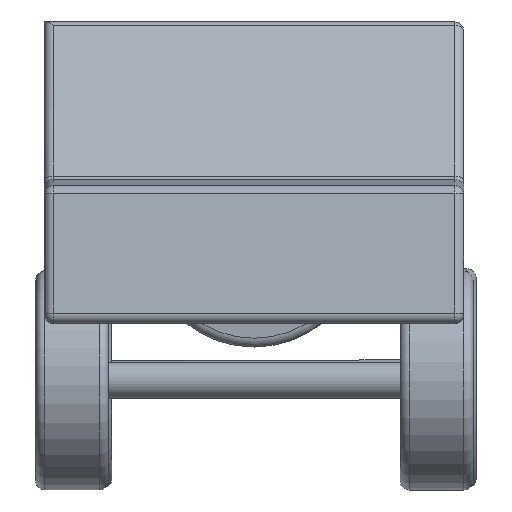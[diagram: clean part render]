
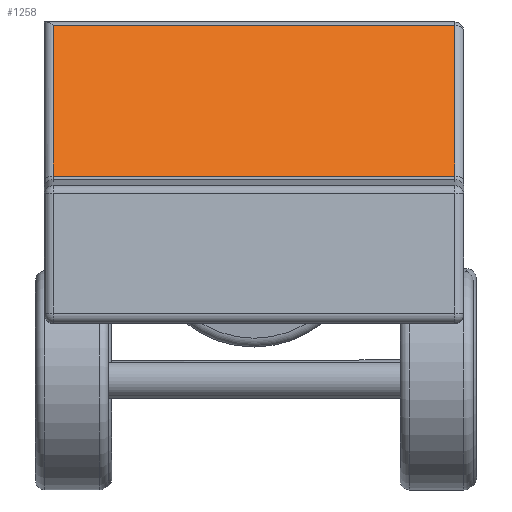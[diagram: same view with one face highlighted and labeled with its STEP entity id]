
A CAD part, left-side view. The second image highlights one B-rep face of the part: STEP entity #1258.
In plain terms, the highlighted planar face has unit normal (-0.798, 0, 0.603).
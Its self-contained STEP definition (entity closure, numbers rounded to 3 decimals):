
#77=(GEOMETRIC_REPRESENTATION_CONTEXT(2)PARAMETRIC_REPRESENTATION_CONTEXT()REPRESENTATION_CONTEXT('',''));
#1070=CARTESIAN_POINT('',(-18.977,-23.,18.985));
#1071=DIRECTION('',(0.,-1.,0.));
#1072=DIRECTION('',(0.,0.,-1.));
#1073=AXIS2_PLACEMENT_3D('',#1070,#1071,#1072);
#1074=CYLINDRICAL_SURFACE('',#1073,0.5);
#1160=CARTESIAN_POINT('',(-18.723,-23.,18.492));
#1161=DIRECTION('',(-0.798,0.,0.603));
#1162=DIRECTION('',(0.603,0.,0.798));
#1163=AXIS2_PLACEMENT_3D('',#1160,#1161,#1162);
#1164=PLANE('',#1163);
#1165=CARTESIAN_POINT('',(-12.342,-22.5,26.933));
#1166=VERTEX_POINT('',#1165);
#1167=CARTESIAN_POINT('',(-12.342,-0.5,26.933));
#1168=VERTEX_POINT('',#1167);
#1169=CARTESIAN_POINT('',(-11.943,-23.,26.631));
#1170=DIRECTION('',(0.,1.,0.));
#1171=DIRECTION('',(0.,-0.,1.));
#1172=AXIS2_PLACEMENT_3D('',#1169,#1170,#1171);
#1173=CYLINDRICAL_SURFACE('',#1172,0.5);
#1174=CARTESIAN_POINT('',(10.581,0.5));
#1175=CARTESIAN_POINT('',(10.581,22.5));
#1176=B_SPLINE_CURVE_WITH_KNOTS('',1,(#1174,#1175),.UNSPECIFIED.,.F.,.F.,(2,2),(0.001,0.023),.UNSPECIFIED.);
#1177=DEFINITIONAL_REPRESENTATION('',(#1176),#77);
#1178=PCURVE('',#1164,#1177);
#1179=CARTESIAN_POINT('',(307.091,0.5));
#1180=CARTESIAN_POINT('',(307.091,22.5));
#1181=B_SPLINE_CURVE_WITH_KNOTS('',1,(#1179,#1180),.UNSPECIFIED.,.F.,.F.,(2,2),(0.001,0.023),.UNSPECIFIED.);
#1182=DEFINITIONAL_REPRESENTATION('',(#1181),#77);
#1183=PCURVE('',#1173,#1182);
#1184=CARTESIAN_POINT('',(-12.342,-22.5,26.933));
#1185=DIRECTION('',(0.,1.,0.));
#1186=VECTOR('',#1185,22.);
#1187=LINE('',#1184,#1186);
#1188=INTERSECTION_CURVE('',#1187,(#1178,#1183),.PCURVE_S1.);
#1189=EDGE_CURVE('',#1166,#1168,#1188,.T.);
#1190=ORIENTED_EDGE('',*,*,#1189,.T.);
#1191=CARTESIAN_POINT('',(-18.579,-0.5,18.684));
#1192=VERTEX_POINT('',#1191);
#1193=CARTESIAN_POINT('',(-22.501,-0.5,12.667));
#1194=DIRECTION('',(-0.603,0.,-0.798));
#1195=DIRECTION('',(-0.798,0.,0.603));
#1196=AXIS2_PLACEMENT_3D('',#1193,#1194,#1195);
#1197=CYLINDRICAL_SURFACE('',#1196,0.5);
#1198=CARTESIAN_POINT('',(10.581,22.5));
#1199=CARTESIAN_POINT('',(0.239,22.5));
#1200=B_SPLINE_CURVE_WITH_KNOTS('',1,(#1198,#1199),.UNSPECIFIED.,.F.,.F.,(2,2),(0.,0.011),.UNSPECIFIED.);
#1201=DEFINITIONAL_REPRESENTATION('',(#1200),#77);
#1202=PCURVE('',#1164,#1201);
#1203=CARTESIAN_POINT('',(0.,-17.506));
#1204=CARTESIAN_POINT('',(0.,-7.165));
#1205=B_SPLINE_CURVE_WITH_KNOTS('',1,(#1203,#1204),.UNSPECIFIED.,.F.,.F.,(2,2),(0.,0.011),.UNSPECIFIED.);
#1206=DEFINITIONAL_REPRESENTATION('',(#1205),#77);
#1207=PCURVE('',#1197,#1206);
#1208=CARTESIAN_POINT('',(-12.342,-0.5,26.933));
#1209=DIRECTION('',(-0.603,-0.,-0.798));
#1210=VECTOR('',#1209,10.341);
#1211=LINE('',#1208,#1210);
#1212=INTERSECTION_CURVE('',#1211,(#1202,#1207),.PCURVE_S1.);
#1213=EDGE_CURVE('',#1168,#1192,#1212,.T.);
#1214=ORIENTED_EDGE('',*,*,#1213,.T.);
#1215=CARTESIAN_POINT('',(-18.579,-22.5,18.684));
#1216=VERTEX_POINT('',#1215);
#1217=CARTESIAN_POINT('',(0.239,22.5));
#1218=CARTESIAN_POINT('',(0.239,0.5));
#1219=B_SPLINE_CURVE_WITH_KNOTS('',1,(#1217,#1218),.UNSPECIFIED.,.F.,.F.,(2,2),(0.001,0.023),.UNSPECIFIED.);
#1220=DEFINITIONAL_REPRESENTATION('',(#1219),#77);
#1221=PCURVE('',#1164,#1220);
#1222=CARTESIAN_POINT('',(52.909,-22.5));
#1223=CARTESIAN_POINT('',(52.909,-0.5));
#1224=B_SPLINE_CURVE_WITH_KNOTS('',1,(#1222,#1223),.UNSPECIFIED.,.F.,.F.,(2,2),(0.001,0.023),.UNSPECIFIED.);
#1225=DEFINITIONAL_REPRESENTATION('',(#1224),#77);
#1226=PCURVE('',#1074,#1225);
#1227=CARTESIAN_POINT('',(-18.579,-0.5,18.684));
#1228=DIRECTION('',(-0.,-1.,-0.));
#1229=VECTOR('',#1228,22.);
#1230=LINE('',#1227,#1229);
#1231=INTERSECTION_CURVE('',#1230,(#1221,#1226),.PCURVE_S1.);
#1232=EDGE_CURVE('',#1192,#1216,#1231,.T.);
#1233=ORIENTED_EDGE('',*,*,#1232,.T.);
#1234=CARTESIAN_POINT('',(-18.324,-22.5,18.191));
#1235=DIRECTION('',(0.603,0.,0.798));
#1236=DIRECTION('',(0.798,0.,-0.603));
#1237=AXIS2_PLACEMENT_3D('',#1234,#1235,#1236);
#1238=CYLINDRICAL_SURFACE('',#1237,0.5);
#1239=CARTESIAN_POINT('',(0.239,0.5));
#1240=CARTESIAN_POINT('',(10.581,0.5));
#1241=B_SPLINE_CURVE_WITH_KNOTS('',1,(#1239,#1240),.UNSPECIFIED.,.F.,.F.,(2,2),(0.,0.011),.UNSPECIFIED.);
#1242=DEFINITIONAL_REPRESENTATION('',(#1241),#77);
#1243=PCURVE('',#1164,#1242);
#1244=CARTESIAN_POINT('',(180.,0.239));
#1245=CARTESIAN_POINT('',(180.,10.581));
#1246=B_SPLINE_CURVE_WITH_KNOTS('',1,(#1244,#1245),.UNSPECIFIED.,.F.,.F.,(2,2),(0.,0.011),.UNSPECIFIED.);
#1247=DEFINITIONAL_REPRESENTATION('',(#1246),#77);
#1248=PCURVE('',#1238,#1247);
#1249=CARTESIAN_POINT('',(-18.579,-22.5,18.684));
#1250=DIRECTION('',(0.603,0.,0.798));
#1251=VECTOR('',#1250,10.341);
#1252=LINE('',#1249,#1251);
#1253=INTERSECTION_CURVE('',#1252,(#1243,#1248),.PCURVE_S1.);
#1254=EDGE_CURVE('',#1216,#1166,#1253,.T.);
#1255=ORIENTED_EDGE('',*,*,#1254,.T.);
#1256=EDGE_LOOP('',(#1190,#1214,#1233,#1255));
#1257=FACE_BOUND('',#1256,.T.);
#1258=ADVANCED_FACE('',(#1257),#1164,.T.);
